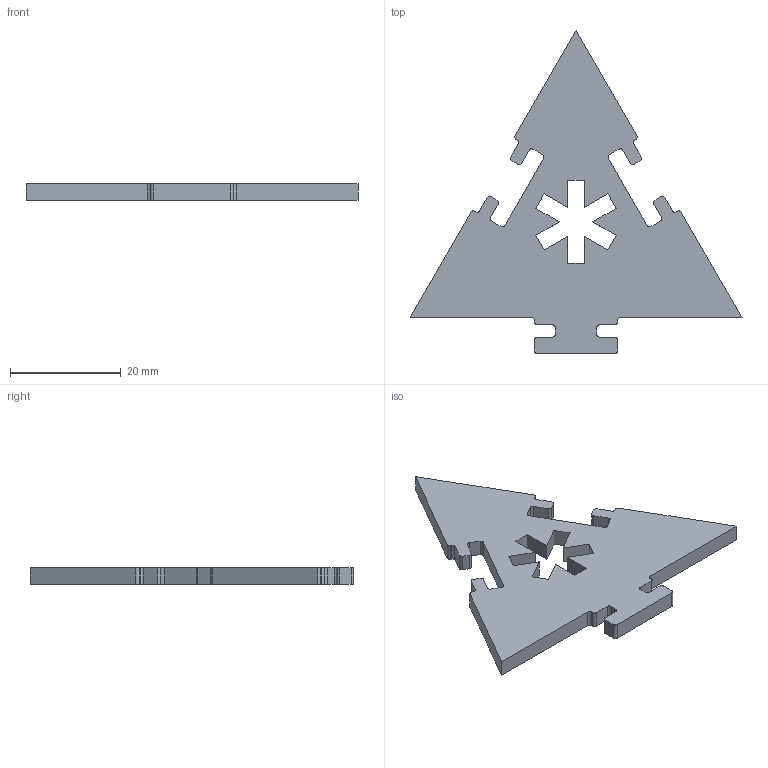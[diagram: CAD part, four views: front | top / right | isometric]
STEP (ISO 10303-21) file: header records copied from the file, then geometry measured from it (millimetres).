
FILE_DESCRIPTION(/* description */ (''),/* implementation_level */ '2;1');
FILE_NAME(/* name */ 'Z:\Diseños\Autodesk\FabAcademy\Semana3-triangulo.stp',/* time_stamp */ '2017-02-14T12:51:24-05:00',/* author */ ('diego'),/* organization */ (''),/* preprocessor_version */ 'ST-DEVELOPER v16.5',/* originating_system */ 'Autodesk Inventor 2017',/* authorisation */ '');
FILE_SCHEMA (('AUTOMOTIVE_DESIGN { 1 0 10303 214 3 1 1 }'));
Length unit declared in the file: millimetre
Products named in the file (1): Semana3-triangulo
Bounding box: 60 x 58.48 x 3 mm (x, y, z)
Volume: 4096.1 mm3; surface area: 3730.8 mm2
Topology: 1 solids, 1 shells, 95 faces, 279 edges, 186 vertices
Faces by surface type: plane 59, cylinder 36
Entity records: 3199 total; most frequent: CARTESIAN_POINT 561, ORIENTED_EDGE 558, DIRECTION 543, EDGE_CURVE 279, LINE 207, VECTOR 207, VERTEX_POINT 186, AXIS2_PLACEMENT_3D 168
